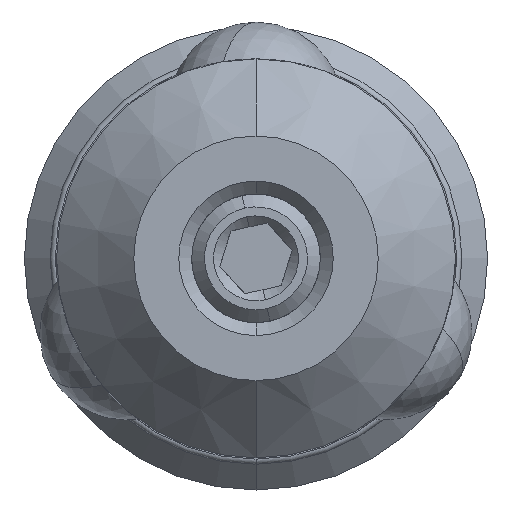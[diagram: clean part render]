
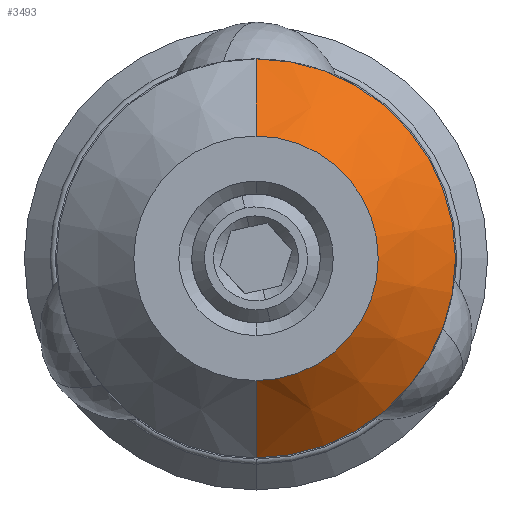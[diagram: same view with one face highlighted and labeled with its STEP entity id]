
A CAD part, front view. The second image highlights one B-rep face of the part: STEP entity #3493.
In plain terms, the highlighted conical face has half-angle 45 degrees and reference radius 7.75 mm.
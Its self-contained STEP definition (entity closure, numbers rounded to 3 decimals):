
#136 = CARTESIAN_POINT ( 'NONE',  ( 0., 3., 7.75 ) ) ;
#152 = CARTESIAN_POINT ( 'NONE',  ( 0., 0., -4.75 ) ) ;
#366 = ORIENTED_EDGE ( 'NONE', *, *, #2817, .F. ) ;
#457 = DIRECTION ( 'NONE',  ( 0., 0.707, 0.707 ) ) ;
#475 = LINE ( 'NONE', #2098, #3278 ) ;
#497 = CARTESIAN_POINT ( 'NONE',  ( 0., 3., 0. ) ) ;
#503 = VERTEX_POINT ( 'NONE', #2861 ) ;
#1023 = CARTESIAN_POINT ( 'NONE',  ( 0., 0., 0. ) ) ;
#1041 = ORIENTED_EDGE ( 'NONE', *, *, #3305, .F. ) ;
#1100 = DIRECTION ( 'NONE',  ( 0., 1., 0. ) ) ;
#1132 = LINE ( 'NONE', #136, #2496 ) ;
#1306 = AXIS2_PLACEMENT_3D ( 'NONE', #497, #1100, #2018 ) ;
#1334 = DIRECTION ( 'NONE',  ( 0., 0., -1. ) ) ;
#1567 = CARTESIAN_POINT ( 'NONE',  ( 0., 0., 4.75 ) ) ;
#1775 = CARTESIAN_POINT ( 'NONE',  ( 0., 3., 0. ) ) ;
#2018 = DIRECTION ( 'NONE',  ( 0., 0., 1. ) ) ;
#2066 = DIRECTION ( 'NONE',  ( 0., 0., -1. ) ) ;
#2098 = CARTESIAN_POINT ( 'NONE',  ( 0., 3., -7.75 ) ) ;
#2197 = VERTEX_POINT ( 'NONE', #152 ) ;
#2285 = CIRCLE ( 'NONE', #2869, 4.75 ) ;
#2465 = ORIENTED_EDGE ( 'NONE', *, *, #3146, .T. ) ;
#2496 = VECTOR ( 'NONE', #457, 1000. ) ;
#2567 = VERTEX_POINT ( 'NONE', #1567 ) ;
#2575 = CONICAL_SURFACE ( 'NONE', #1306, 7.75, 0.785 ) ;
#2595 = AXIS2_PLACEMENT_3D ( 'NONE', #1775, #3600, #2066 ) ;
#2653 = FACE_OUTER_BOUND ( 'NONE', #3504, .T. ) ;
#2817 = EDGE_CURVE ( 'NONE', #2567, #503, #1132, .T. ) ;
#2861 = CARTESIAN_POINT ( 'NONE',  ( 0., 3., 7.75 ) ) ;
#2869 = AXIS2_PLACEMENT_3D ( 'NONE', #1023, #2985, #1334 ) ;
#2883 = DIRECTION ( 'NONE',  ( 0., 0.707, -0.707 ) ) ;
#2885 = ORIENTED_EDGE ( 'NONE', *, *, #2984, .T. ) ;
#2931 = CIRCLE ( 'NONE', #2595, 7.75 ) ;
#2984 = EDGE_CURVE ( 'NONE', #3014, #503, #2931, .T. ) ;
#2985 = DIRECTION ( 'NONE',  ( 0., -1., 0. ) ) ;
#3014 = VERTEX_POINT ( 'NONE', #3612 ) ;
#3146 = EDGE_CURVE ( 'NONE', #2197, #3014, #475, .T. ) ;
#3278 = VECTOR ( 'NONE', #2883, 1000. ) ;
#3305 = EDGE_CURVE ( 'NONE', #2197, #2567, #2285, .T. ) ;
#3493 = ADVANCED_FACE ( 'NONE', ( #2653 ), #2575, .T. ) ;
#3504 = EDGE_LOOP ( 'NONE', ( #1041, #2465, #2885, #366 ) ) ;
#3600 = DIRECTION ( 'NONE',  ( 0., -1., 0. ) ) ;
#3612 = CARTESIAN_POINT ( 'NONE',  ( 0., 3., -7.75 ) ) ;
